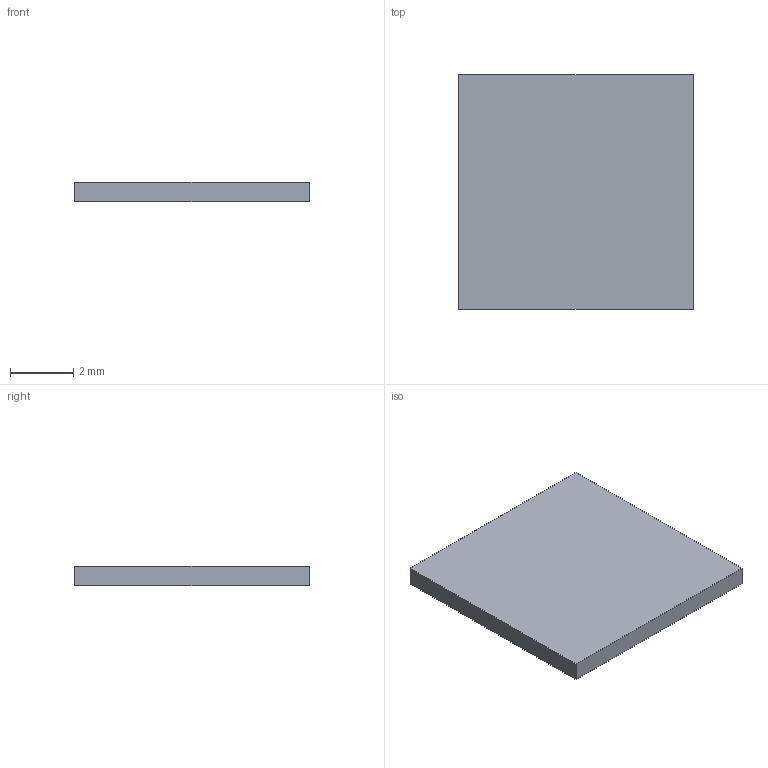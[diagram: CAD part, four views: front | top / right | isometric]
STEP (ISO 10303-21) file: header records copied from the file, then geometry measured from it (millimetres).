
FILE_DESCRIPTION(('Open CASCADE Model'),'2;1');
FILE_NAME('Open CASCADE Shape Model','2026-10-29T11:33:07',('Author'),( 'Open CASCADE'),'Open CASCADE STEP processor 7.9','Open CASCADE 7.9' ,'Unknown');
FILE_SCHEMA(('AUTOMOTIVE_DESIGN { 1 0 10303 214 1 1 1 1 }'));
Length unit declared in the file: millimetre
Products named in the file (1): Open CASCADE STEP translator 7.9 1
Bounding box: 7.4 x 7.4 x 0.6 mm (x, y, z)
Volume: 32.9 mm3; surface area: 127.3 mm2
Topology: 1 solids, 1 shells, 6 faces, 12 edges, 8 vertices
Faces by surface type: plane 6
Entity records: 322 total; most frequent: CARTESIAN_POINT 51, DIRECTION 50, LINE 36, VECTOR 36, ORIENTED_EDGE 24, PCURVE 24, DEFINITIONAL_REPRESENTATION 24, EDGE_CURVE 12
